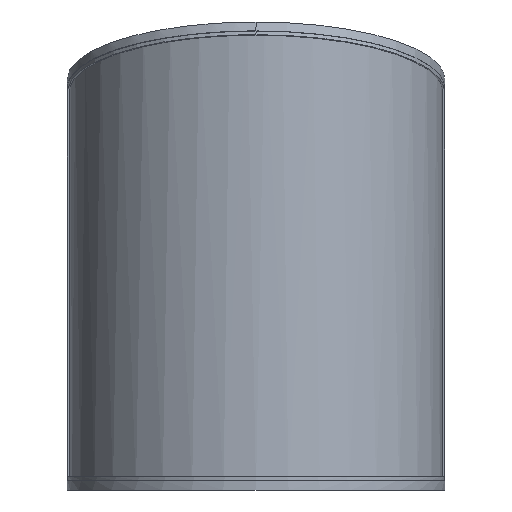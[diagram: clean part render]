
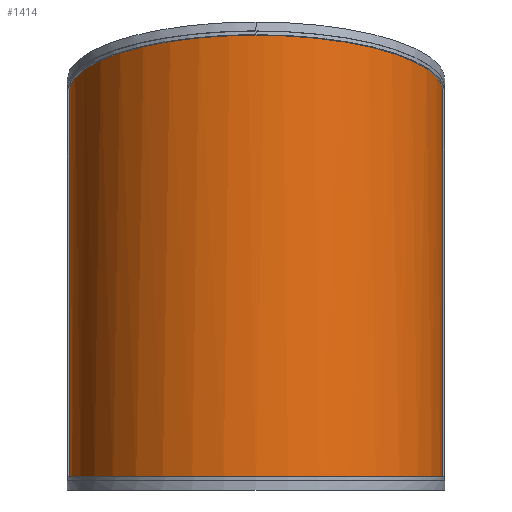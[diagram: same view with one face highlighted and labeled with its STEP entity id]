
A CAD part, front view. The second image highlights one B-rep face of the part: STEP entity #1414.
In plain terms, the highlighted cylindrical face has radius 100 mm (diameter 200 mm), a partial arc.
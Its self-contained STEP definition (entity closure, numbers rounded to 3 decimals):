
#27=ELLIPSE('',#1496,104.491,100.);
#28=ELLIPSE('',#1499,104.491,100.);
#102=CIRCLE('',#1498,100.);
#103=CIRCLE('',#1500,100.);
#156=LINE('',#2762,#222);
#157=LINE('',#2766,#223);
#222=VECTOR('',#1665,1000.);
#223=VECTOR('',#1668,1000.);
#412=ORIENTED_EDGE('',*,*,#666,.F.);
#413=ORIENTED_EDGE('',*,*,#668,.T.);
#414=ORIENTED_EDGE('',*,*,#669,.T.);
#415=ORIENTED_EDGE('',*,*,#670,.T.);
#416=ORIENTED_EDGE('',*,*,#671,.F.);
#417=ORIENTED_EDGE('',*,*,#672,.F.);
#666=EDGE_CURVE('',#801,#802,#27,.T.);
#668=EDGE_CURVE('',#801,#803,#102,.T.);
#669=EDGE_CURVE('',#803,#804,#28,.T.);
#670=EDGE_CURVE('',#804,#805,#156,.T.);
#671=EDGE_CURVE('',#806,#805,#103,.T.);
#672=EDGE_CURVE('',#802,#806,#157,.T.);
#801=VERTEX_POINT('',#2753);
#802=VERTEX_POINT('',#2755);
#803=VERTEX_POINT('',#2759);
#804=VERTEX_POINT('',#2761);
#805=VERTEX_POINT('',#2763);
#806=VERTEX_POINT('',#2765);
#933=EDGE_LOOP('',(#412,#413,#414,#415,#416,#417));
#1010=FACE_BOUND('',#933,.T.);
#1061=CYLINDRICAL_SURFACE('',#1497,100.);
#1414=ADVANCED_FACE('',(#1010),#1061,.T.);
#1496=AXIS2_PLACEMENT_3D('',#2754,#1656,#1657);
#1497=AXIS2_PLACEMENT_3D('',#2757,#1659,#1660);
#1498=AXIS2_PLACEMENT_3D('',#2758,#1661,#1662);
#1499=AXIS2_PLACEMENT_3D('',#2760,#1663,#1664);
#1500=AXIS2_PLACEMENT_3D('',#2764,#1666,#1667);
#1656=DIRECTION('',(0.,0.29,0.957));
#1657=DIRECTION('',(0.,0.957,-0.29));
#1659=DIRECTION('',(0.,0.,-1.));
#1660=DIRECTION('',(-1.,0.,0.));
#1661=DIRECTION('',(0.,0.,-1.));
#1662=DIRECTION('',(-1.,0.,0.));
#1663=DIRECTION('',(0.,-0.29,-0.957));
#1664=DIRECTION('',(0.,0.957,-0.29));
#1665=DIRECTION('',(0.,0.,-1.));
#1666=DIRECTION('',(0.,0.,-1.));
#1667=DIRECTION('',(-1.,0.,0.));
#1668=DIRECTION('',(0.,0.,-1.));
#2753=CARTESIAN_POINT('',(14.107,-99.,125.));
#2754=CARTESIAN_POINT('',(0.,0.,95.));
#2755=CARTESIAN_POINT('',(100.,0.,95.));
#2757=CARTESIAN_POINT('',(0.,0.,54.));
#2758=CARTESIAN_POINT('',(0.,0.,125.));
#2759=CARTESIAN_POINT('',(-14.107,-99.,125.));
#2760=CARTESIAN_POINT('',(0.,0.,95.));
#2761=CARTESIAN_POINT('',(-100.,0.,95.));
#2762=CARTESIAN_POINT('',(-100.,0.,125.));
#2763=CARTESIAN_POINT('',(-100.,0.,-125.));
#2764=CARTESIAN_POINT('',(0.,0.,-125.));
#2765=CARTESIAN_POINT('',(100.,0.,-125.));
#2766=CARTESIAN_POINT('',(100.,0.,125.));
